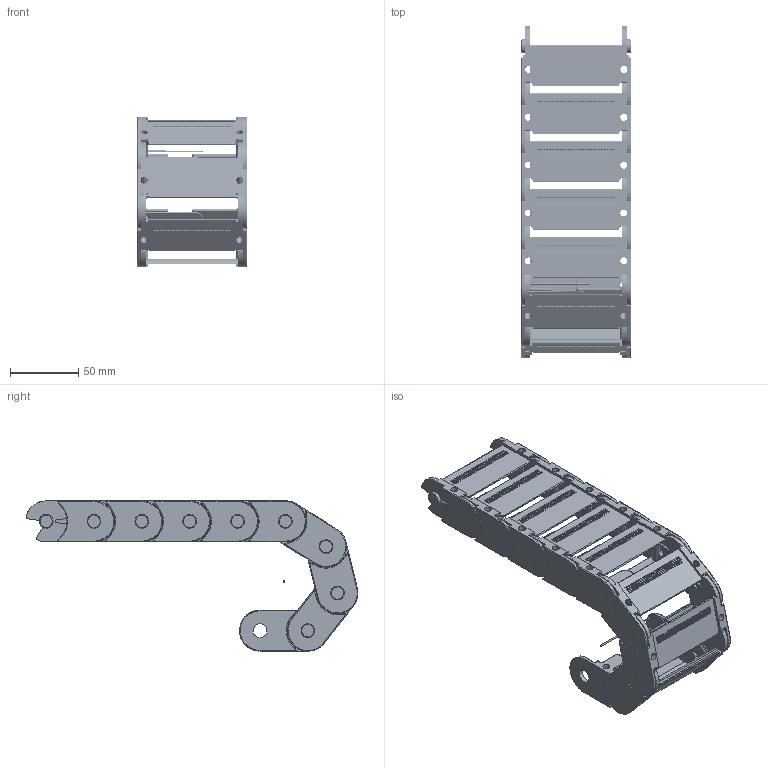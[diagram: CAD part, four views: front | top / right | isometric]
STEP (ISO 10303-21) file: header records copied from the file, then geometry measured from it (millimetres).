
FILE_DESCRIPTION((''),'2;1');
FILE_NAME('C:\Uebbing\PARAMETERKETTEN\KOLIBRI\Kol_30_080_4\Kol 30_080_4_R40.stp','2012-03-05T11:30:12',('Uebbing'),(''),'Autodesk Inventor 10','Autodesk Inventor 10','');
FILE_SCHEMA(('AUTOMOTIVE_DESIGN { 1 0 10303 214 1 1 1 1 }'));
Length unit declared in the file: millimetre
Products named in the file (3): KOLIBRI 30_080_4_PARAMETRISCH; Achse; Kol 30_080_4_Lasche
Assembly tree (10 placements, depth 2):
  KOLIBRI 30_080_4_PARAMETRISCH
    Achse
    Kol 30_080_4_Lasche  x9
Bounding box: 80 x 242.78 x 110 mm (x, y, z)
Volume: 179995.6 mm3; surface area: 145187.4 mm2
Topology: 10 solids, 10 shells, 6591 faces, 17482 edges, 11424 vertices
Faces by surface type: plane 2756, bspline 2511, cylinder 1090, torus 216, sphere 18
Full cylindrical faces by diameter (mm): 1 x1, 1.166 x9, 2.048 x9, 5.1 x9, 10 x9, 10.1 x9
Entity records: 25330 total; most frequent: CARTESIAN_POINT 7925, ORIENTED_EDGE 3850, DIRECTION 3117, EDGE_CURVE 1925, VERTEX_POINT 1266, VECTOR 1259, LINE 1259, AXIS2_PLACEMENT_3D 929
